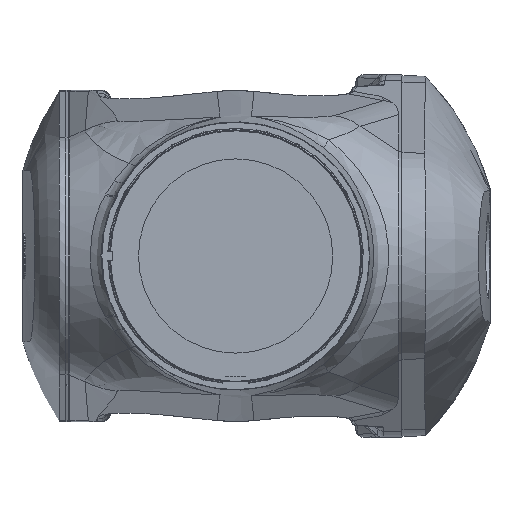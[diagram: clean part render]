
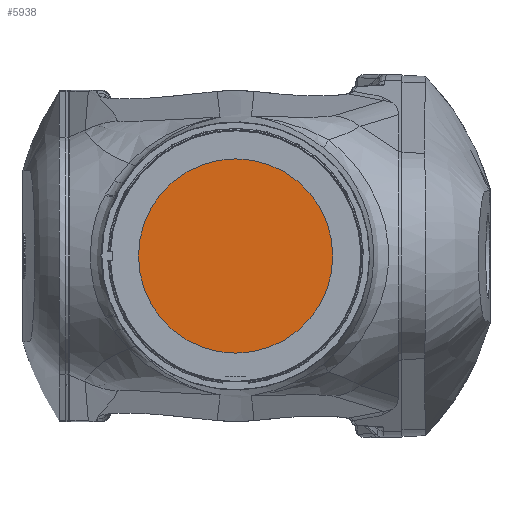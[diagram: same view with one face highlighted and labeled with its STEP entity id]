
A CAD part, left-side view. The second image highlights one B-rep face of the part: STEP entity #5938.
In plain terms, the highlighted planar face has unit normal (-1, 0, 0).
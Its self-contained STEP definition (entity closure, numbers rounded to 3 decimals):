
#927 = ORIENTED_EDGE ( 'NONE', *, *, #11890, .T. ) ;
#1920 = DIRECTION ( 'NONE',  ( -1., 0., 0. ) ) ;
#2125 = CARTESIAN_POINT ( 'NONE',  ( 537., 0., 2010. ) ) ;
#2487 = VERTEX_POINT ( 'NONE', #19765 ) ;
#5938 = ADVANCED_FACE ( 'NONE', ( #10629 ), #7899, .T. ) ;
#6122 = CIRCLE ( 'NONE', #24738, 85. ) ;
#7899 = PLANE ( 'NONE',  #26209 ) ;
#10629 = FACE_OUTER_BOUND ( 'NONE', #12503, .T. ) ;
#11890 = EDGE_CURVE ( 'NONE', #2487, #2487, #6122, .T. ) ;
#12503 = EDGE_LOOP ( 'NONE', ( #927 ) ) ;
#16882 = CARTESIAN_POINT ( 'NONE',  ( 537., 0., 2010. ) ) ;
#19765 = CARTESIAN_POINT ( 'NONE',  ( 537., -85., 2010. ) ) ;
#24738 = AXIS2_PLACEMENT_3D ( 'NONE', #16882, #34422, #37519 ) ;
#26209 = AXIS2_PLACEMENT_3D ( 'NONE', #2125, #1920, #31285 ) ;
#31285 = DIRECTION ( 'NONE',  ( 0., -1., 0. ) ) ;
#34422 = DIRECTION ( 'NONE',  ( -1., 0., 0. ) ) ;
#37519 = DIRECTION ( 'NONE',  ( 0., -1., 0. ) ) ;
